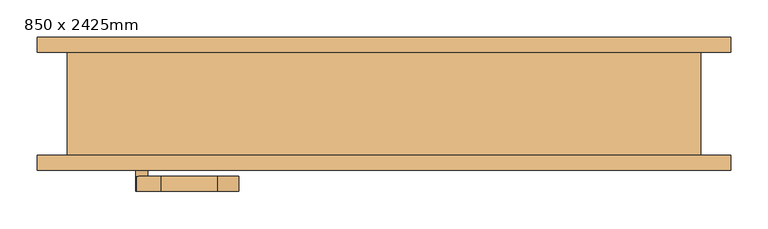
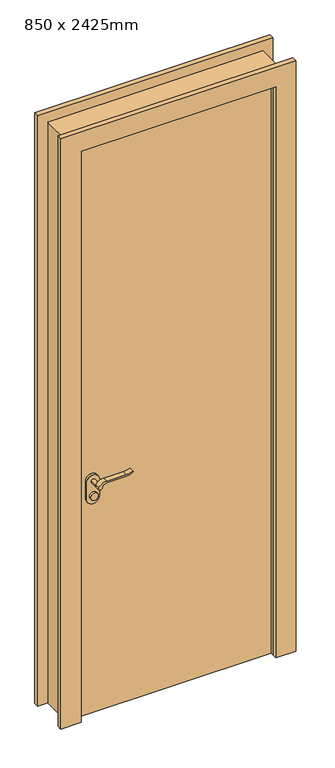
"""IFC4 building model written with IfcOpenShell, lengths in millimetres: door geometry, 单扇平开门 : 850 x 2425mm."""

from ifc_helpers import new_model, si_unit, point, frame, frame_2d, origin, origin_with_axes, place, context, project, spatial, polyline, circle_curve, trimmed, segment, composite_curve, outline, extrude, source, transform, mapped, element, save


def door_850_x_2425mm_c86dc4c1(model_context):
    return source(origin(), model_context, "Body", "SweptSolid", [
        extrude(outline(composite_curve([segment(trimmed(circle_curve(frame_2d((904.4, -325.0)), 25.0), [point((904.4, -350.0))], [point((904.4, -300.0))], False, "CARTESIAN"), True, "CONTINUOUS"), segment(polyline([(904.4, -300.0), (974.4, -300.0)]), True, "CONTINUOUS"), segment(trimmed(circle_curve(frame_2d((974.4, -325.0)), 25.0), [point((974.4, -300.0))], [point((974.4, -350.0))], False, "CARTESIAN"), True, "CONTINUOUS"), segment(polyline([(974.4, -350.0), (904.4, -350.0)]), True, "CONTINUOUS")], self_intersect=False)), frame((0.0, -18.975, 0.0), z_axis=(0.0, 1.0, 0.0), x_axis=(0.0, 0.0, 1.0)), (0.0, 0.0, 1.0), 10.0),
        extrude(outline(composite_curve([segment(trimmed(circle_curve(frame_2d((904.4, -325.0)), 25.0), [point((904.4, -350.0))], [point((904.4, -300.0))], False, "CARTESIAN"), True, "CONTINUOUS"), segment(polyline([(904.4, -300.0), (974.4, -300.0)]), True, "CONTINUOUS"), segment(trimmed(circle_curve(frame_2d((974.4, -325.0)), 25.0), [point((974.4, -300.0))], [point((974.4, -350.0))], False, "CARTESIAN"), True, "CONTINUOUS"), segment(polyline([(974.4, -350.0), (904.4, -350.0)]), True, "CONTINUOUS")], self_intersect=False)), frame((0.0, -63.975, 0.0), z_axis=(0.0, 1.0, 0.0), x_axis=(0.0, 0.0, 1.0)), (0.0, 0.0, 1.0), 10.0),
        extrude(outline(composite_curve([segment(trimmed(circle_curve(frame_2d((974.4, -325.0)), 8.0), [point((974.4, -317.0))], [point((974.4, -333.0))], False, "CARTESIAN"), True, "CONTINUOUS"), segment(trimmed(circle_curve(frame_2d((974.4, -325.0)), 8.0), [point((974.4, -333.0))], [point((974.4, -317.0))], False, "CARTESIAN"), True, "CONTINUOUS")], self_intersect=False)), frame((0.0, -8.975, 0.0), z_axis=(0.0, 1.0, 0.0), x_axis=(0.0, 0.0, 1.0)), (0.0, 0.0, 1.0), 30.0),
        extrude(outline(composite_curve([segment(trimmed(circle_curve(frame_2d((974.4, -325.0)), 8.0), [point((974.4, -317.0))], [point((974.4, -333.0))], False, "CARTESIAN"), True, "CONTINUOUS"), segment(trimmed(circle_curve(frame_2d((974.4, -325.0)), 8.0), [point((974.4, -333.0))], [point((974.4, -317.0))], False, "CARTESIAN"), True, "CONTINUOUS")], self_intersect=False)), frame((0.0, -93.975, 0.0), z_axis=(0.0, 1.0, 0.0), x_axis=(0.0, 0.0, 1.0)), (0.0, 0.0, 1.0), 30.0),
        extrude(outline(composite_curve([segment(trimmed(circle_curve(frame_2d((969.2738682, -299.6138122)), 18.1261318), [point((974.3999903, -317.0))], [point((987.4, -299.6138122))], True, "CARTESIAN"), True, "CONTINUOUS"), segment(polyline([(987.4, -299.6138122), (987.4, -223.3564091)]), True, "CONTINUOUS"), segment(trimmed(circle_curve(frame_2d((1046.6709207, -226.9396612)), 59.3791355), [point((987.4, -223.3564091))], [point((996.6135558, -195.0))], False, "CARTESIAN"), True, "CONTINUOUS"), segment(polyline([(996.6135558, -195.0), (999.4, -195.0)]), True, "CONTINUOUS"), segment(trimmed(circle_curve(frame_2d((1077.6850638, -223.4227909)), 83.2850902), [point((999.4, -195.0))], [point((994.4, -223.3564091))], True, "CARTESIAN"), True, "CONTINUOUS"), segment(polyline([(994.4, -223.3564091), (994.4, -299.6325667)]), True, "CONTINUOUS"), segment(trimmed(circle_curve(frame_2d((957.1555521, -301.3324871)), 37.2832219), [point((994.4, -299.6325667))], [point((979.0523287, -331.5081363))], False, "CARTESIAN"), True, "CONTINUOUS"), segment(trimmed(circle_curve(frame_2d((974.4, -325.0)), 8.0), [point((979.0523287, -331.5081363))], [point((974.3999903, -317.0))], False, "CARTESIAN"), True, "CONTINUOUS")], self_intersect=False)), frame((0.0, 21.025, 0.0), z_axis=(0.0, 1.0, 0.0), x_axis=(0.0, 0.0, 1.0)), (0.0, 0.0, 1.0), 20.0),
        extrude(outline(composite_curve([segment(trimmed(circle_curve(frame_2d((974.4, -325.0)), 8.0), [point((979.0523287, -331.5081363))], [point((974.4, -317.0))], False, "CARTESIAN"), True, "CONTINUOUS"), segment(trimmed(circle_curve(frame_2d((969.2738613, -299.6138099)), 18.1261387), [point((974.4, -317.0))], [point((987.4, -299.6138099))], True, "CARTESIAN"), True, "CONTINUOUS"), segment(polyline([(987.4, -299.6138099), (987.4, -223.3564091)]), True, "CONTINUOUS"), segment(trimmed(circle_curve(frame_2d((1046.6709207, -226.9396612)), 59.3791355), [point((987.4, -223.3564091))], [point((996.6135558, -195.0))], False, "CARTESIAN"), True, "CONTINUOUS"), segment(polyline([(996.6135558, -195.0), (999.4, -195.0)]), True, "CONTINUOUS"), segment(trimmed(circle_curve(frame_2d((1077.6850638, -223.4227909)), 83.2850902), [point((999.4, -195.0))], [point((994.4, -223.3564091))], True, "CARTESIAN"), True, "CONTINUOUS"), segment(polyline([(994.4, -223.3564091), (994.4, -299.6325667)]), True, "CONTINUOUS"), segment(trimmed(circle_curve(frame_2d((957.1555521, -301.3324871)), 37.2832219), [point((994.4, -299.6325667))], [point((979.0523287, -331.5081363))], False, "CARTESIAN"), True, "CONTINUOUS")], self_intersect=False)), frame((0.0, -113.975, 0.0), z_axis=(0.0, 1.0, 0.0), x_axis=(0.0, 0.0, 1.0)), (0.0, 0.0, 1.0), 20.0),
        extrude(outline(composite_curve([segment(trimmed(circle_curve(frame_2d((914.4, -325.0)), 15.0), [point((914.4, -310.0))], [point((914.4, -340.0))], False, "CARTESIAN"), True, "CONTINUOUS"), segment(trimmed(circle_curve(frame_2d((914.4, -325.0)), 15.0), [point((914.4, -340.0))], [point((914.4, -310.0))], False, "CARTESIAN"), True, "CONTINUOUS")], self_intersect=False)), frame((0.0, -8.975, 0.0), z_axis=(0.0, 1.0, 0.0), x_axis=(0.0, 0.0, 1.0)), (0.0, 0.0, 1.0), 10.0),
        extrude(outline(composite_curve([segment(trimmed(circle_curve(frame_2d((914.4, -325.0)), 15.0), [point((914.4, -310.0))], [point((914.4, -340.0))], False, "CARTESIAN"), True, "CONTINUOUS"), segment(trimmed(circle_curve(frame_2d((914.4, -325.0)), 15.0), [point((914.4, -340.0))], [point((914.4, -310.0))], False, "CARTESIAN"), True, "CONTINUOUS")], self_intersect=False)), frame((0.0, -73.975, 0.0), z_axis=(0.0, 1.0, 0.0), x_axis=(0.0, 0.0, 1.0)), (0.0, 0.0, 1.0), 10.0),
        extrude(outline(polyline([(0.0, 425.0), (2425.0, 425.0), (2425.0, -425.0), (0.0, -425.0), (0.0, -385.0), (2385.0, -385.0), (2385.0, 385.0), (0.0, 385.0), (0.0, 425.0)])), frame((0.0, -65.825, 0.0), z_axis=(0.0, 1.0, 0.0), x_axis=(0.0, 0.0, 1.0)), (0.0, 0.0, 1.0), 138.0),
        extrude(outline(polyline([(385.0, -18.975), (385.0, -53.975), (-385.0, -53.975), (-385.0, -18.975), (385.0, -18.975)])), origin_with_axes(), (0.0, 0.0, 1.0), 2385.0),
        extrude(outline(polyline([(0.0, 385.0), (0.0, 465.0), (2465.0, 465.0), (2465.0, -465.0), (0.0, -465.0), (0.0, -385.0), (2385.0, -385.0), (2385.0, 385.0), (0.0, 385.0)])), frame((0.0, 72.175, 0.0), z_axis=(0.0, 1.0, 0.0), x_axis=(0.0, 0.0, 1.0)), (0.0, 0.0, 1.0), 20.0),
        extrude(outline(polyline([(0.0, 385.0), (0.0, 465.0), (2465.0, 465.0), (2465.0, -465.0), (0.0, -465.0), (0.0, -385.0), (2385.0, -385.0), (2385.0, 385.0), (0.0, 385.0)])), frame((0.0, -85.825, 0.0), z_axis=(0.0, 1.0, 0.0), x_axis=(0.0, 0.0, 1.0)), (0.0, 0.0, 1.0), 20.0),
    ])


if __name__ == "__main__":
    model = new_model("IFC4")
    model_context = context("Model", 3, world=origin())
    ifc_project = project(units=[si_unit("LENGTHUNIT", "METRE", prefix="MILLI")], contexts=[model_context])
    site = spatial("IfcSite", under=ifc_project)
    building = spatial("IfcBuilding", under=site)
    placement = place(None, origin())
    door_850_x_2425mm_shape = door_850_x_2425mm_c86dc4c1(model_context)
    element("IfcDoor", 1, ObjectType="单扇平开门 : 850 x 2425mm", at=placement, inside=building, context=model_context, shape_type="MappedRepresentation", body=[
        mapped(door_850_x_2425mm_shape, transform((0.0, 0.0, 0.0), x_axis=(1.0, 0.0, 0.0), y_axis=(0.0, 1.0, 0.0), z_axis=(0.0, 0.0, 1.0))),
    ])
    save(model, "model.ifc")
